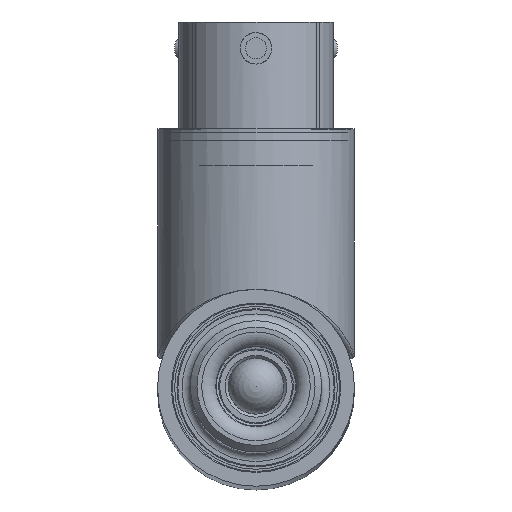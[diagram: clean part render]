
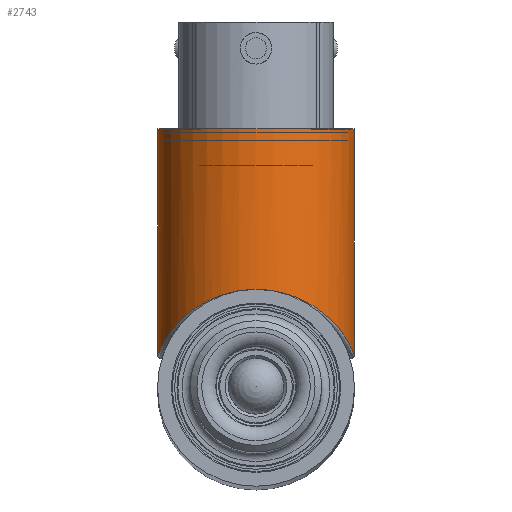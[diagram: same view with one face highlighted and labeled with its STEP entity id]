
A CAD part, top view. The second image highlights one B-rep face of the part: STEP entity #2743.
In plain terms, the highlighted cylindrical face has radius 9.525 mm (diameter 19.05 mm), a full revolution.
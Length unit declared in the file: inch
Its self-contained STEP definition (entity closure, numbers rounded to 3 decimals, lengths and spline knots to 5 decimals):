
#48=B_SPLINE_CURVE_WITH_KNOTS('',3,(#4840,#4841,#4842,#4843,#4844,#4845,
#4846,#4847,#4848,#4849,#4850,#4851,#4852,#4853,#4854,#4855,#4856,#4857,
#4858,#4859,#4860,#4861,#4862,#4863,#4864,#4865,#4866,#4867),
 .UNSPECIFIED.,.F.,.F.,(4,1,1,1,1,1,1,1,1,1,1,1,1,1,1,1,1,1,1,1,1,1,1,1,
1,4),(-9.63704,-9.40762,-9.17816,-8.71925,
-8.41331,-8.26035,-8.10738,-8.03089,
-7.95441,-7.80144,-7.4955,-6.88362,
-6.57768,-6.27174,-5.9658,-5.35393,
-5.04799,-4.93326,-4.81853,-4.70381,
-4.58908,-4.35963,-4.13017,-3.67126,
-3.44181,-3.21236),.UNSPECIFIED.);
#269=FACE_OUTER_BOUND('',#462,.T.);
#462=EDGE_LOOP('',(#1834,#1835,#1836,#1837));
#686=LINE('',#4900,#817);
#817=VECTOR('',#3519,0.375);
#954=CIRCLE('',#3081,0.375);
#1161=VERTEX_POINT('',#4839);
#1163=VERTEX_POINT('',#4899);
#1418=EDGE_CURVE('',#1161,#1161,#48,.T.);
#1421=EDGE_CURVE('',#1163,#1161,#686,.T.);
#1422=EDGE_CURVE('',#1163,#1163,#954,.T.);
#1834=ORIENTED_EDGE('',*,*,#1418,.F.);
#1835=ORIENTED_EDGE('',*,*,#1421,.F.);
#1836=ORIENTED_EDGE('',*,*,#1422,.F.);
#1837=ORIENTED_EDGE('',*,*,#1421,.T.);
#2454=CYLINDRICAL_SURFACE('',#3080,0.375);
#2743=ADVANCED_FACE('',(#269),#2454,.T.);
#3080=AXIS2_PLACEMENT_3D('',#4898,#3517,#3518);
#3081=AXIS2_PLACEMENT_3D('',#4901,#3520,#3521);
#3517=DIRECTION('center_axis',(0.,1.,0.));
#3518=DIRECTION('ref_axis',(0.,0.,
1.));
#3519=DIRECTION('',(0.,-1.,0.));
#3520=DIRECTION('center_axis',(0.,1.,0.));
#3521=DIRECTION('ref_axis',(0.,0.,
1.));
#4839=CARTESIAN_POINT('',(0.,0.3875,-4.));
#4840=CARTESIAN_POINT('Ctrl Pts',(0.,0.3875,
-4.));
#4841=CARTESIAN_POINT('Ctrl Pts',(0.03115,0.3875,
-4.));
#4842=CARTESIAN_POINT('Ctrl Pts',(0.09335,0.38035,
-3.9921));
#4843=CARTESIAN_POINT('Ctrl Pts',(0.20458,0.34114,-3.94848));
#4844=CARTESIAN_POINT('Ctrl Pts',(0.29317,0.27244,-3.87028));
#4845=CARTESIAN_POINT('Ctrl Pts',(0.34371,0.20218,-3.78173));
#4846=CARTESIAN_POINT('Ctrl Pts',(0.36561,0.15994,-3.71432));
#4847=CARTESIAN_POINT('Ctrl Pts',(0.37367,0.14039,-3.66655));
#4848=CARTESIAN_POINT('Ctrl Pts',(0.37544,0.13579,-3.62499));
#4849=CARTESIAN_POINT('Ctrl Pts',(0.37368,0.14035,-3.58342));
#4850=CARTESIAN_POINT('Ctrl Pts',(0.36225,0.1682,-3.51659));
#4851=CARTESIAN_POINT('Ctrl Pts',(0.31691,0.24866,-3.40608));
#4852=CARTESIAN_POINT('Ctrl Pts',(0.21711,0.34028,-3.30253));
#4853=CARTESIAN_POINT('Ctrl Pts',(0.06396,0.38896,
-3.24834));
#4854=CARTESIAN_POINT('Ctrl Pts',(-0.06399,0.38901,
-3.24828));
#4855=CARTESIAN_POINT('Ctrl Pts',(-0.21711,0.34021,
-3.30273));
#4856=CARTESIAN_POINT('Ctrl Pts',(-0.31689,0.24864,
-3.40573));
#4857=CARTESIAN_POINT('Ctrl Pts',(-0.36063,0.17112,
-3.51279));
#4858=CARTESIAN_POINT('Ctrl Pts',(-0.373,0.14218,
-3.57839));
#4859=CARTESIAN_POINT('Ctrl Pts',(-0.37599,0.13436,
-3.62501));
#4860=CARTESIAN_POINT('Ctrl Pts',(-0.373,0.14218,
-3.67167));
#4861=CARTESIAN_POINT('Ctrl Pts',(-0.36245,0.1668,
-3.72785));
#4862=CARTESIAN_POINT('Ctrl Pts',(-0.33996,0.20834,-3.78931));
#4863=CARTESIAN_POINT('Ctrl Pts',(-0.28642,0.27752,
-3.87637));
#4864=CARTESIAN_POINT('Ctrl Pts',(-0.20458,0.3412,
-3.94844));
#4865=CARTESIAN_POINT('Ctrl Pts',(-0.09337,0.38032,
-3.99211));
#4866=CARTESIAN_POINT('Ctrl Pts',(-0.03116,0.3875,
-4.));
#4867=CARTESIAN_POINT('Ctrl Pts',(-0.00001,0.3875,
-4.));
#4898=CARTESIAN_POINT('Origin',(0.,0.5,
-3.625));
#4899=CARTESIAN_POINT('',(0.,1.,-4.));
#4900=CARTESIAN_POINT('',(0.,0.5,-4.));
#4901=CARTESIAN_POINT('Origin',(0.,1.,
-3.625));
